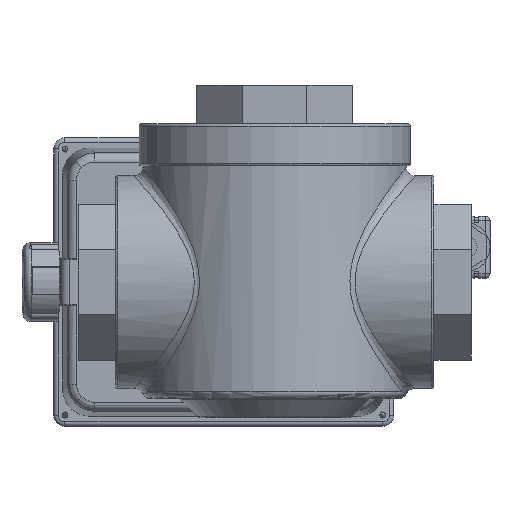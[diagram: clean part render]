
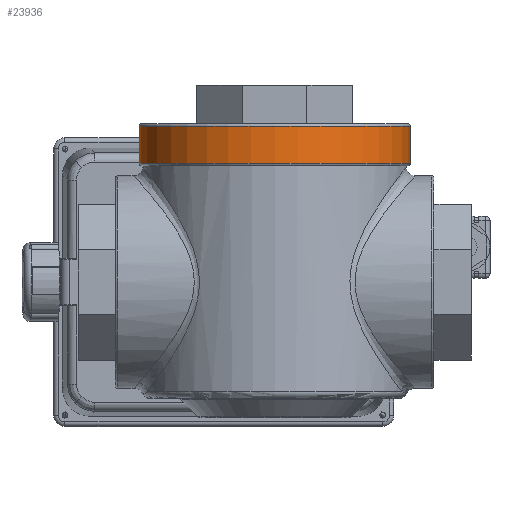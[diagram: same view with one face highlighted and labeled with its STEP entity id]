
A CAD part, front view. The second image highlights one B-rep face of the part: STEP entity #23936.
In plain terms, the highlighted cylindrical face has radius 60 mm (diameter 120 mm), a partial arc.
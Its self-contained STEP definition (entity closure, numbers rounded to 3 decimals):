
#50 = CARTESIAN_POINT ( 'NONE',  ( 0., 0., 70. ) ) ;
#2259 = LINE ( 'NONE', #34756, #39485 ) ;
#2662 = AXIS2_PLACEMENT_3D ( 'NONE', #50, #44757, #49254 ) ;
#2986 = EDGE_CURVE ( 'NONE', #15608, #26919, #2259, .T. ) ;
#5798 = EDGE_CURVE ( 'NONE', #15608, #13447, #28928, .T. ) ;
#6153 = CARTESIAN_POINT ( 'NONE',  ( 60., 0., 69. ) ) ;
#7529 = EDGE_CURVE ( 'NONE', #13447, #24717, #27335, .T. ) ;
#11355 = CARTESIAN_POINT ( 'NONE',  ( 0., 0., 52.5 ) ) ;
#13447 = VERTEX_POINT ( 'NONE', #35959 ) ;
#14558 = CARTESIAN_POINT ( 'NONE',  ( -60., 0., 70. ) ) ;
#14680 = CARTESIAN_POINT ( 'NONE',  ( 0., 0., 69. ) ) ;
#15608 = VERTEX_POINT ( 'NONE', #6153 ) ;
#17872 = DIRECTION ( 'NONE',  ( 1., 0., 0. ) ) ;
#22579 = DIRECTION ( 'NONE',  ( 0., 0., 1. ) ) ;
#23019 = CARTESIAN_POINT ( 'NONE',  ( 60., 0., 52.5 ) ) ;
#23574 = ORIENTED_EDGE ( 'NONE', *, *, #2986, .F. ) ;
#23936 = ADVANCED_FACE ( 'NONE', ( #24341 ), #32851, .T. ) ;
#24341 = FACE_OUTER_BOUND ( 'NONE', #31695, .T. ) ;
#24717 = VERTEX_POINT ( 'NONE', #51946 ) ;
#25345 = AXIS2_PLACEMENT_3D ( 'NONE', #11355, #22579, #43007 ) ;
#26183 = CIRCLE ( 'NONE', #25345, 60. ) ;
#26919 = VERTEX_POINT ( 'NONE', #23019 ) ;
#27335 = LINE ( 'NONE', #14558, #37703 ) ;
#27867 = DIRECTION ( 'NONE',  ( 0., 0., -1. ) ) ;
#28928 = CIRCLE ( 'NONE', #47543, 60. ) ;
#31695 = EDGE_LOOP ( 'NONE', ( #23574, #44138, #42983, #43951 ) ) ;
#32851 = CYLINDRICAL_SURFACE ( 'NONE', #2662, 60. ) ;
#34756 = CARTESIAN_POINT ( 'NONE',  ( 60., 0., 70. ) ) ;
#35959 = CARTESIAN_POINT ( 'NONE',  ( -60., 0., 69. ) ) ;
#37703 = VECTOR ( 'NONE', #27867, 1000. ) ;
#39485 = VECTOR ( 'NONE', #50909, 1000. ) ;
#41808 = DIRECTION ( 'NONE',  ( 0., 0., -1. ) ) ;
#42983 = ORIENTED_EDGE ( 'NONE', *, *, #7529, .T. ) ;
#43007 = DIRECTION ( 'NONE',  ( 1., 0., 0. ) ) ;
#43951 = ORIENTED_EDGE ( 'NONE', *, *, #50894, .T. ) ;
#44138 = ORIENTED_EDGE ( 'NONE', *, *, #5798, .T. ) ;
#44757 = DIRECTION ( 'NONE',  ( 0., 0., -1. ) ) ;
#47543 = AXIS2_PLACEMENT_3D ( 'NONE', #14680, #41808, #17872 ) ;
#49254 = DIRECTION ( 'NONE',  ( -1., 0., 0. ) ) ;
#50894 = EDGE_CURVE ( 'NONE', #24717, #26919, #26183, .T. ) ;
#50909 = DIRECTION ( 'NONE',  ( 0., 0., -1. ) ) ;
#51946 = CARTESIAN_POINT ( 'NONE',  ( -60., 0., 52.5 ) ) ;
